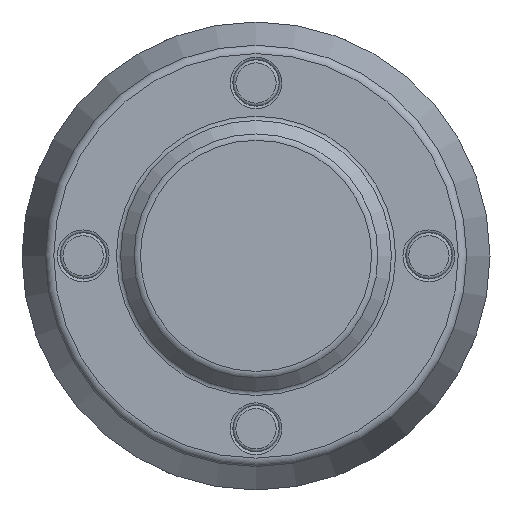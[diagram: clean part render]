
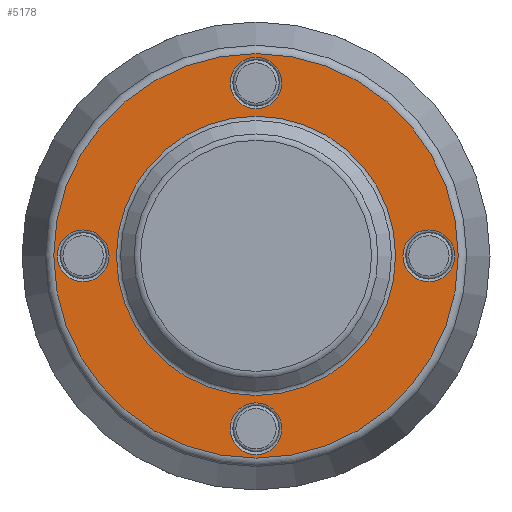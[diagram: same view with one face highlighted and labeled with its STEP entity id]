
A CAD part, top view. The second image highlights one B-rep face of the part: STEP entity #5178.
In plain terms, the highlighted planar face has unit normal (0, 0, 1).
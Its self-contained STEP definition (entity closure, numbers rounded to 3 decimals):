
#5178=ADVANCED_FACE('',(#16186,#16188,#16190,#16192,#16194,#16196),#16198,.T.);
#16186=FACE_BOUND('',#16187,.T.);
#16187=EDGE_LOOP('',(#83418));
#16188=FACE_BOUND('',#16189,.T.);
#16189=EDGE_LOOP('',(#83419));
#16190=FACE_BOUND('',#16191,.T.);
#16191=EDGE_LOOP('',(#83420));
#16192=FACE_BOUND('',#16193,.T.);
#16193=EDGE_LOOP('',(#83421));
#16194=FACE_BOUND('',#16195,.T.);
#16195=EDGE_LOOP('',(#83422));
#16196=FACE_BOUND('',#16197,.T.);
#16197=EDGE_LOOP('',(#83423));
#16198=PLANE('',#16199);
#16199=AXIS2_PLACEMENT_3D('',#16200,#16201,#16202);
#16200=CARTESIAN_POINT('',(0.,0.,-12.));
#16201=DIRECTION('',(0.,0.,1.));
#16202=DIRECTION('',(-1.,0.,0.));
#83418=ORIENTED_EDGE('',*,*,#88967,.F.);
#83419=ORIENTED_EDGE('',*,*,#88968,.F.);
#83420=ORIENTED_EDGE('',*,*,#88969,.F.);
#83421=ORIENTED_EDGE('',*,*,#88970,.T.);
#83422=ORIENTED_EDGE('',*,*,#88971,.F.);
#83423=ORIENTED_EDGE('',*,*,#88972,.F.);
#88967=EDGE_CURVE('',#94507,#94507,#94508,.T.);
#88968=EDGE_CURVE('',#94509,#94509,#94510,.F.);
#88969=EDGE_CURVE('',#94511,#94511,#94512,.F.);
#88970=EDGE_CURVE('',#94513,#94513,#94514,.T.);
#88971=EDGE_CURVE('',#94515,#94515,#94516,.F.);
#88972=EDGE_CURVE('',#94517,#94517,#94518,.F.);
#94507=VERTEX_POINT('',#125900);
#94508=CIRCLE('',#125901,135.692);
#94509=VERTEX_POINT('',#125905);
#94510=CIRCLE('',#125906,17.4);
#94511=VERTEX_POINT('',#125910);
#94512=CIRCLE('',#125911,17.4);
#94513=VERTEX_POINT('',#125915);
#94514=CIRCLE('',#125916,93.657);
#94515=VERTEX_POINT('',#125920);
#94516=CIRCLE('',#125921,17.4);
#94517=VERTEX_POINT('',#125925);
#94518=CIRCLE('',#125926,17.4);
#125900=CARTESIAN_POINT('',(-135.692,0.,-12.));
#125901=AXIS2_PLACEMENT_3D('',#125902,#125903,#125904);
#125902=CARTESIAN_POINT('',(0.,0.,-12.));
#125903=DIRECTION('',(0.,0.,-1.));
#125904=DIRECTION('',(-1.,0.,0.));
#125905=CARTESIAN_POINT('',(0.,133.4,-12.));
#125906=AXIS2_PLACEMENT_3D('',#125907,#125908,#125909);
#125907=CARTESIAN_POINT('',(0.,116.,-12.));
#125908=DIRECTION('',(0.,0.,-1.));
#125909=DIRECTION('',(0.,1.,0.));
#125910=CARTESIAN_POINT('',(0.,-133.4,-12.));
#125911=AXIS2_PLACEMENT_3D('',#125912,#125913,#125914);
#125912=CARTESIAN_POINT('',(0.,-116.,-12.));
#125913=DIRECTION('',(0.,0.,-1.));
#125914=DIRECTION('',(0.,-1.,0.));
#125915=CARTESIAN_POINT('',(-93.657,0.,-12.));
#125916=AXIS2_PLACEMENT_3D('',#125917,#125918,#125919);
#125917=CARTESIAN_POINT('',(0.,0.,-12.));
#125918=DIRECTION('',(0.,0.,-1.));
#125919=DIRECTION('',(-1.,0.,0.));
#125920=CARTESIAN_POINT('',(-133.4,0.,-12.));
#125921=AXIS2_PLACEMENT_3D('',#125922,#125923,#125924);
#125922=CARTESIAN_POINT('',(-116.,0.,-12.));
#125923=DIRECTION('',(0.,0.,-1.));
#125924=DIRECTION('',(-1.,0.,0.));
#125925=CARTESIAN_POINT('',(133.4,0.,-12.));
#125926=AXIS2_PLACEMENT_3D('',#125927,#125928,#125929);
#125927=CARTESIAN_POINT('',(116.,0.,-12.));
#125928=DIRECTION('',(0.,0.,-1.));
#125929=DIRECTION('',(1.,0.,0.));
